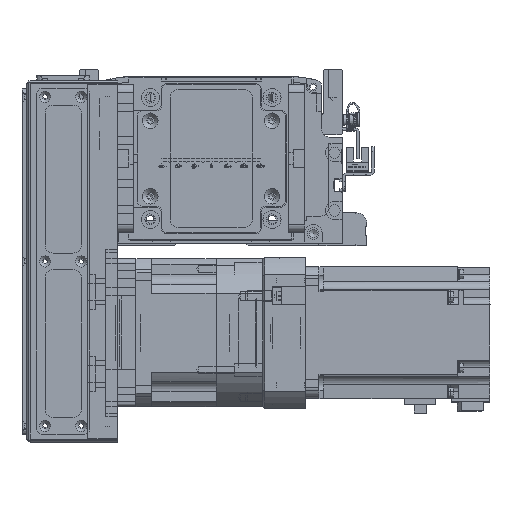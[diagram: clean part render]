
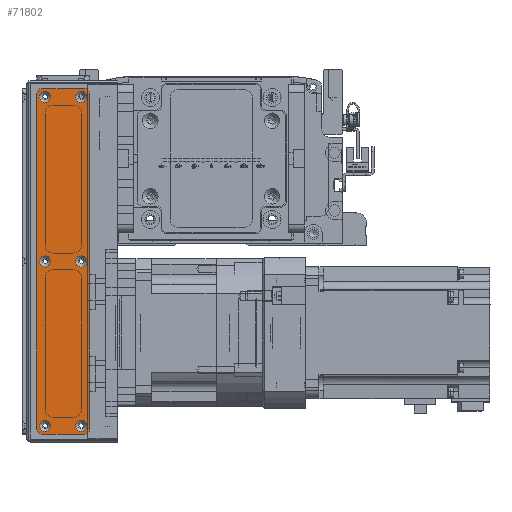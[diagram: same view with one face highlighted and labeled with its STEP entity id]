
A CAD part, front view. The second image highlights one B-rep face of the part: STEP entity #71802.
In plain terms, the highlighted planar face has unit normal (0, -1, 0).
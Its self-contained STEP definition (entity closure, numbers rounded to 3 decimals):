
#1993=FACE_BOUND('',#15018,.T.);
#1994=FACE_BOUND('',#15019,.T.);
#1995=FACE_BOUND('',#15020,.T.);
#1996=FACE_BOUND('',#15021,.T.);
#1997=FACE_BOUND('',#15022,.T.);
#1998=FACE_BOUND('',#15023,.T.);
#5566=PLANE('',#79501);
#10487=FACE_OUTER_BOUND('',#15017,.T.);
#15017=EDGE_LOOP('',(#67692,#67693,#67694,#67695,#67696,#67697,#67698,#67699));
#15018=EDGE_LOOP('',(#67700));
#15019=EDGE_LOOP('',(#67701));
#15020=EDGE_LOOP('',(#67702));
#15021=EDGE_LOOP('',(#67703));
#15022=EDGE_LOOP('',(#67704));
#15023=EDGE_LOOP('',(#67705));
#21588=LINE('',#123635,#28152);
#21589=LINE('',#123639,#28153);
#21590=LINE('',#123643,#28154);
#21591=LINE('',#123646,#28155);
#28152=VECTOR('',#100156,10.);
#28153=VECTOR('',#100159,10.);
#28154=VECTOR('',#100162,10.);
#28155=VECTOR('',#100165,10.);
#30940=CIRCLE('',#79469,3.45);
#30943=CIRCLE('',#79474,3.45);
#30946=CIRCLE('',#79479,3.45);
#30949=CIRCLE('',#79484,3.45);
#30952=CIRCLE('',#79489,3.45);
#30955=CIRCLE('',#79494,3.45);
#30958=CIRCLE('',#79499,3.);
#30960=CIRCLE('',#79502,3.);
#30961=CIRCLE('',#79503,3.);
#30962=CIRCLE('',#79504,3.);
#37573=VERTEX_POINT('',#123565);
#37576=VERTEX_POINT('',#123575);
#37579=VERTEX_POINT('',#123585);
#37582=VERTEX_POINT('',#123595);
#37585=VERTEX_POINT('',#123605);
#37588=VERTEX_POINT('',#123615);
#37591=VERTEX_POINT('',#123625);
#37592=VERTEX_POINT('',#123626);
#37595=VERTEX_POINT('',#123634);
#37596=VERTEX_POINT('',#123636);
#37597=VERTEX_POINT('',#123638);
#37598=VERTEX_POINT('',#123640);
#37599=VERTEX_POINT('',#123642);
#37600=VERTEX_POINT('',#123644);
#47600=EDGE_CURVE('',#37573,#37573,#30940,.T.);
#47605=EDGE_CURVE('',#37576,#37576,#30943,.T.);
#47610=EDGE_CURVE('',#37579,#37579,#30946,.T.);
#47615=EDGE_CURVE('',#37582,#37582,#30949,.T.);
#47620=EDGE_CURVE('',#37585,#37585,#30952,.T.);
#47625=EDGE_CURVE('',#37588,#37588,#30955,.T.);
#47630=EDGE_CURVE('',#37591,#37592,#30958,.T.);
#47634=EDGE_CURVE('',#37591,#37595,#21588,.T.);
#47635=EDGE_CURVE('',#37596,#37595,#30960,.T.);
#47636=EDGE_CURVE('',#37596,#37597,#21589,.T.);
#47637=EDGE_CURVE('',#37598,#37597,#30961,.T.);
#47638=EDGE_CURVE('',#37598,#37599,#21590,.T.);
#47639=EDGE_CURVE('',#37600,#37599,#30962,.T.);
#47640=EDGE_CURVE('',#37600,#37592,#21591,.T.);
#67692=ORIENTED_EDGE('',*,*,#47630,.F.);
#67693=ORIENTED_EDGE('',*,*,#47634,.T.);
#67694=ORIENTED_EDGE('',*,*,#47635,.F.);
#67695=ORIENTED_EDGE('',*,*,#47636,.T.);
#67696=ORIENTED_EDGE('',*,*,#47637,.F.);
#67697=ORIENTED_EDGE('',*,*,#47638,.T.);
#67698=ORIENTED_EDGE('',*,*,#47639,.F.);
#67699=ORIENTED_EDGE('',*,*,#47640,.T.);
#67700=ORIENTED_EDGE('',*,*,#47600,.T.);
#67701=ORIENTED_EDGE('',*,*,#47605,.T.);
#67702=ORIENTED_EDGE('',*,*,#47610,.T.);
#67703=ORIENTED_EDGE('',*,*,#47615,.T.);
#67704=ORIENTED_EDGE('',*,*,#47620,.T.);
#67705=ORIENTED_EDGE('',*,*,#47625,.T.);
#71802=ADVANCED_FACE('',(#10487,#1993,#1994,#1995,#1996,#1997,#1998),#5566,
 .T.);
#79469=AXIS2_PLACEMENT_3D('',#123566,#100076,#100077);
#79474=AXIS2_PLACEMENT_3D('',#123576,#100088,#100089);
#79479=AXIS2_PLACEMENT_3D('',#123586,#100100,#100101);
#79484=AXIS2_PLACEMENT_3D('',#123596,#100112,#100113);
#79489=AXIS2_PLACEMENT_3D('',#123606,#100124,#100125);
#79494=AXIS2_PLACEMENT_3D('',#123616,#100136,#100137);
#79499=AXIS2_PLACEMENT_3D('',#123627,#100148,#100149);
#79501=AXIS2_PLACEMENT_3D('',#123633,#100154,#100155);
#79502=AXIS2_PLACEMENT_3D('',#123637,#100157,#100158);
#79503=AXIS2_PLACEMENT_3D('',#123641,#100160,#100161);
#79504=AXIS2_PLACEMENT_3D('',#123645,#100163,#100164);
#100076=DIRECTION('center_axis',(0.,1.,0.));
#100077=DIRECTION('ref_axis',(1.,0.,0.));
#100088=DIRECTION('center_axis',(0.,1.,0.));
#100089=DIRECTION('ref_axis',(1.,0.,0.));
#100100=DIRECTION('center_axis',(0.,1.,0.));
#100101=DIRECTION('ref_axis',(1.,0.,0.));
#100112=DIRECTION('center_axis',(0.,1.,0.));
#100113=DIRECTION('ref_axis',(1.,0.,0.));
#100124=DIRECTION('center_axis',(0.,1.,0.));
#100125=DIRECTION('ref_axis',(1.,0.,0.));
#100136=DIRECTION('center_axis',(0.,1.,0.));
#100137=DIRECTION('ref_axis',(1.,0.,0.));
#100148=DIRECTION('center_axis',(0.,1.,0.));
#100149=DIRECTION('ref_axis',(-0.707,0.,0.707));
#100154=DIRECTION('center_axis',(0.,-1.,0.));
#100155=DIRECTION('ref_axis',(0.,0.,-1.));
#100156=DIRECTION('',(0.,0.,-1.));
#100157=DIRECTION('center_axis',(0.,1.,0.));
#100158=DIRECTION('ref_axis',(-0.707,0.,-0.707));
#100159=DIRECTION('',(1.,0.,0.));
#100160=DIRECTION('center_axis',(0.,1.,0.));
#100161=DIRECTION('ref_axis',(0.707,0.,-0.707));
#100162=DIRECTION('',(0.,0.,1.));
#100163=DIRECTION('center_axis',(0.,1.,0.));
#100164=DIRECTION('ref_axis',(0.707,0.,0.707));
#100165=DIRECTION('',(-1.,0.,0.));
#123565=CARTESIAN_POINT('',(96.55,-1.5,11.));
#123566=CARTESIAN_POINT('Origin',(100.,-1.5,11.));
#123575=CARTESIAN_POINT('',(-103.45,-1.5,-11.));
#123576=CARTESIAN_POINT('Origin',(-100.,-1.5,-11.));
#123585=CARTESIAN_POINT('',(-3.45,-1.5,11.));
#123586=CARTESIAN_POINT('Origin',(0.,-1.5,11.));
#123595=CARTESIAN_POINT('',(-3.45,-1.5,-11.));
#123596=CARTESIAN_POINT('Origin',(0.,-1.5,-11.));
#123605=CARTESIAN_POINT('',(-103.45,-1.5,11.));
#123606=CARTESIAN_POINT('Origin',(-100.,-1.5,11.));
#123615=CARTESIAN_POINT('',(96.55,-1.5,-11.));
#123616=CARTESIAN_POINT('Origin',(100.,-1.5,-11.));
#123625=CARTESIAN_POINT('',(-105.,-1.5,13.));
#123626=CARTESIAN_POINT('',(-102.,-1.5,16.));
#123627=CARTESIAN_POINT('Origin',(-102.,-1.5,13.));
#123633=CARTESIAN_POINT('Origin',(0.,-1.5,0.));
#123634=CARTESIAN_POINT('',(-105.,-1.5,-13.));
#123635=CARTESIAN_POINT('',(-105.,-1.5,16.));
#123636=CARTESIAN_POINT('',(-102.,-1.5,-16.));
#123637=CARTESIAN_POINT('Origin',(-102.,-1.5,-13.));
#123638=CARTESIAN_POINT('',(102.,-1.5,-16.));
#123639=CARTESIAN_POINT('',(-105.,-1.5,-16.));
#123640=CARTESIAN_POINT('',(105.,-1.5,-13.));
#123641=CARTESIAN_POINT('Origin',(102.,-1.5,-13.));
#123642=CARTESIAN_POINT('',(105.,-1.5,13.));
#123643=CARTESIAN_POINT('',(105.,-1.5,-16.));
#123644=CARTESIAN_POINT('',(102.,-1.5,16.));
#123645=CARTESIAN_POINT('Origin',(102.,-1.5,13.));
#123646=CARTESIAN_POINT('',(105.,-1.5,16.));
